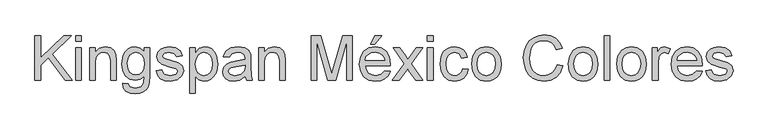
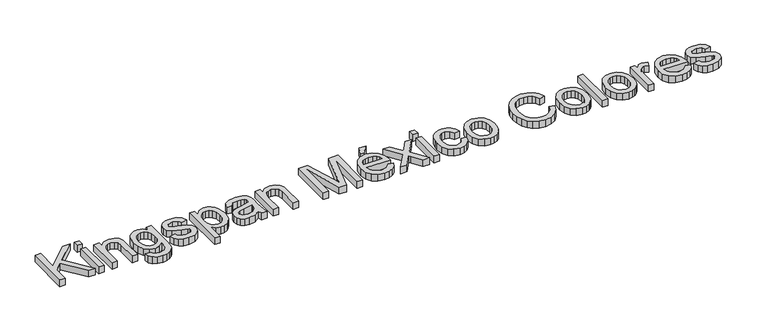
"""IFC4 building model written with IfcOpenShell, lengths in millimetres: proxy geometry, KIP-MX_ColourRange_Spanish : KIP-MX_ColourRange_Spanish."""

from ifc_helpers import new_model, si_unit, origin, origin_with_axes, place, context, project, spatial, polyline, outline, extrude, source, transform, mapped, element, save


def generic_models_9fd19f98(model_context):
    return source(origin(), model_context, "Body", "SweptSolid", [
        extrude(outline(polyline([(-1167.8046055, 2278.480545), (-1167.8046055, 2429.1650102), (-1148.9690473, 2429.1650102), (-1148.9690473, 2355.4046702), (-1071.7138283, 2429.1650102), (-1045.3734775, 2429.1650102), (-1110.2310732, 2367.2136822), (-1043.0190327, 2278.480545), (-1066.0484456, 2278.480545), (-1123.5851897, 2354.4849652), (-1148.9690473, 2330.2783299), (-1148.9690473, 2278.480545), (-1167.8046055, 2278.480545)])), origin_with_axes(), (0.0, 0.0, 1.0), 25.0),
        extrude(outline(polyline([(-1031.2468089, 2410.3294521), (-1031.2468089, 2429.1650102), (-1012.4112507, 2429.1650102), (-1012.4112507, 2410.3294521), (-1031.2468089, 2410.3294521)])), origin_with_axes(), (0.0, 0.0, 1.0), 25.0),
        extrude(outline(polyline([(-1031.2468089, 2278.480545), (-1031.2468089, 2389.1394492), (-1012.4112507, 2389.1394492), (-1012.4112507, 2278.480545), (-1031.2468089, 2278.480545)])), origin_with_axes(), (0.0, 0.0, 1.0), 25.0),
        extrude(outline(polyline([(-984.1579135, 2278.480545), (-984.1579135, 2389.1394492), (-965.3223553, 2389.1394492), (-965.3223553, 2373.6884054), (-950.9197752, 2387.0425218), (-931.2564826, 2391.4938939), (-913.4693881, 2387.9070445), (-901.3292823, 2378.4892654), (-895.6822937, 2364.6385083), (-894.6890123, 2346.4283495), (-894.6890123, 2278.480545), (-913.5245704, 2278.480545), (-913.5245704, 2343.8899637), (-915.6950742, 2360.5550181), (-923.3654138, 2369.3657919), (-936.2964659, 2372.6583358), (-947.3283273, 2370.8097287), (-956.7323108, 2365.2639077), (-963.1748442, 2354.5493446), (-965.3223553, 2337.1945114), (-965.3223553, 2278.480545), (-984.1579135, 2278.480545)])), origin_with_axes(), (0.0, 0.0, 1.0), 25.0),
        extrude(outline(polyline([(-873.4990093, 2269.0627659), (-854.6634512, 2266.7083212), (-848.5566101, 2256.7755073), (-830.2728749, 2252.5816525), (-810.9958584, 2257.3273303), (-801.7988085, 2270.6446585), (-800.5112215, 2292.6072136), (-813.7733674, 2282.0122122), (-829.9417811, 2278.480545), (-849.3613519, 2282.5916263), (-863.842107, 2294.9248702), (-872.8506173, 2313.0062703), (-875.8534541, 2334.3618201), (-870.4639829, 2363.5532564), (-863.8696981, 2375.4036552), (-854.8657863, 2384.2098304), (-843.7603486, 2389.672878), (-830.8614861, 2391.4938939), (-814.058476, 2387.3736156), (-800.5112215, 2375.0127805), (-800.5112215, 2389.1394492), (-781.6756634, 2389.1394492), (-781.6756634, 2293.600495), (-782.9632503, 2271.5413709), (-786.8260113, 2257.0146306), (-793.4800769, 2247.3807208), (-803.1415778, 2240.0000883), (-815.5989818, 2235.3095929), (-830.6407569, 2233.7460944), (-848.1657355, 2235.9487878), (-861.9659088, 2242.5568682), (-870.8180693, 2253.5887295), (-873.4990093, 2269.0627659)]), holes=[polyline([(-857.017896, 2335.6494071), (-855.0083406, 2318.3727489), (-848.9796744, 2306.4947589), (-839.9159817, 2299.6107671), (-828.8013469, 2297.3161032), (-817.7694856, 2299.5969715), (-808.6598077, 2306.4395766), (-802.5483681, 2318.1658152), (-800.5112215, 2335.0975841), (-802.6081489, 2351.4269461), (-808.898931, 2363.1853744), (-818.1419661, 2370.2900954), (-829.0956525, 2372.6583358), (-839.8516024, 2370.3268836), (-848.8693098, 2363.3325272), (-854.9807494, 2351.7488429), (-857.017896, 2335.6494071)])]), origin_with_axes(), (0.0, 0.0, 1.0), 25.0),
        extrude(outline(polyline([(-760.4856604, 2311.4427718), (-741.6501023, 2313.7972165), (-738.6794552, 2305.7406008), (-732.931299, 2299.8177007), (-712.9553067, 2294.9616584), (-693.7518665, 2299.4130305), (-687.4978726, 2309.8608792), (-689.0705681, 2314.6617392), (-693.7886547, 2318.3221651), (-713.1760358, 2323.6932422), (-741.5397377, 2332.9086862), (-753.9189668, 2343.6692345), (-758.1312157, 2358.8627609), (-754.7467013, 2372.8974591), (-745.5128632, 2383.6212192), (-733.5383043, 2389.1946315), (-717.3331024, 2391.4938939), (-694.4140541, 2387.7966799), (-679.8459271, 2377.7902896), (-673.371204, 2360.8861119), (-692.2067621, 2358.5316672), (-699.2884905, 2368.9243335), (-715.8615744, 2372.6583358), (-733.8877922, 2369.0898804), (-739.2956575, 2360.7757473), (-737.0515773, 2355.2943056), (-730.0250312, 2351.1372391), (-713.8014352, 2347.1273253), (-686.1551033, 2338.2613692), (-673.3160217, 2328.2181908), (-668.6623144, 2311.847442), (-674.1253621, 2293.8212242), (-689.8891056, 2280.7430193), (-713.212824, 2276.1261002), (-732.2047321, 2278.3517863), (-746.0646862, 2285.0288445), (-755.3169184, 2296.0836985), (-760.4856604, 2311.4427718)])), origin_with_axes(), (0.0, 0.0, 1.0), 25.0),
        extrude(outline(polyline([(-647.4723115, 2236.1005392), (-647.4723115, 2389.1394492), (-628.6367534, 2389.1394492), (-628.6367534, 2370.671773), (-615.6137307, 2386.2883637), (-598.0289714, 2391.4938939), (-585.2910573, 2389.672878), (-574.1534299, 2384.2098304), (-565.0851387, 2375.4358448), (-558.5552333, 2363.6820151), (-553.2945207, 2334.6561257), (-554.7798443, 2318.5474928), (-559.235815, 2304.1403142), (-566.5198785, 2292.1657552), (-576.4894805, 2283.3549814), (-588.100756, 2277.9333205), (-600.3098397, 2276.1261002), (-616.6989826, 2280.9637485), (-628.6367534, 2293.1958248), (-628.6367534, 2236.1005392), (-647.4723115, 2236.1005392)]), holes=[polyline([(-628.6367534, 2332.9270803), (-626.5996068, 2316.0412967), (-620.4881672, 2304.2322847), (-611.4704598, 2297.279315), (-600.7145099, 2294.9616584), (-589.7838161, 2297.3620884), (-580.5361825, 2304.5633785), (-574.2316048, 2316.8046519), (-572.1300789, 2334.3250319), (-574.181021, 2351.118845), (-580.3338474, 2363.0934039), (-589.3377592, 2370.2671028), (-599.9419577, 2372.6583358), (-610.587543, 2370.1153515), (-619.9363442, 2362.4863986), (-626.4616511, 2350.0106004), (-628.6367534, 2332.9270803)])]), origin_with_axes(), (0.0, 0.0, 1.0), 25.0),
        extrude(outline(polyline([(-461.4711747, 2292.6072136), (-479.7365158, 2279.8417084), (-499.9148432, 2276.1261002), (-515.6555941, 2278.3609834), (-527.2668696, 2285.0656327), (-534.4267729, 2295.2467669), (-536.8134074, 2307.9111046), (-533.2081638, 2322.8103254), (-523.7352024, 2333.6260561), (-510.5466329, 2339.8064736), (-494.2494605, 2342.639165), (-461.5815393, 2349.1138881), (-461.4711747, 2353.3077428), (-462.7679588, 2361.7138464), (-466.6583109, 2367.2136822), (-475.3587201, 2371.2971724), (-487.4804318, 2372.6583358), (-506.5367192, 2369.0346981), (-515.6234044, 2356.1772224), (-534.4589626, 2358.5316672), (-526.3103764, 2376.9257669), (-509.9028394, 2387.7047094), (-485.0524106, 2391.4938939), (-462.2253328, 2388.1461678), (-449.3310689, 2379.7400642), (-443.5553216, 2366.9561648), (-442.6356166, 2350.4750515), (-442.6356166, 2327.0409684), (-441.6791234, 2294.3178649), (-437.9267271, 2278.480545), (-456.7622852, 2278.480545), (-461.4711747, 2292.6072136)]), holes=[polyline([(-461.4711747, 2330.2783299), (-491.8582276, 2324.5025826), (-508.0634294, 2321.449162), (-515.4026752, 2316.4827551), (-517.9778492, 2309.2354798), (-512.3676488, 2299.0451485), (-495.9049295, 2294.9616584), (-476.8486421, 2299.4682128), (-464.5613835, 2310.375914), (-461.5815393, 2324.944041), (-461.4711747, 2330.2783299)])]), origin_with_axes(), (0.0, 0.0, 1.0), 25.0),
        extrude(outline(polyline([(-416.7367241, 2278.480545), (-416.7367241, 2389.1394492), (-397.901166, 2389.1394492), (-397.901166, 2373.6884054), (-383.4985859, 2387.0425218), (-363.8352932, 2391.4938939), (-346.0481988, 2387.9070445), (-333.9080929, 2378.4892654), (-328.2611043, 2364.6385083), (-327.2678229, 2346.4283495), (-327.2678229, 2278.480545), (-346.1033811, 2278.480545), (-346.1033811, 2343.8899637), (-348.2738848, 2360.5550181), (-355.9442244, 2369.3657919), (-368.8752766, 2372.6583358), (-379.9071379, 2370.8097287), (-389.3111214, 2365.2639077), (-395.7536548, 2354.5493446), (-397.901166, 2337.1945114), (-397.901166, 2278.480545), (-416.7367241, 2278.480545)])), origin_with_axes(), (0.0, 0.0, 1.0), 25.0),
        extrude(outline(polyline([(-240.1533665, 2278.480545), (-240.1533665, 2429.1650102), (-207.7429627, 2429.1650102), (-176.9144515, 2322.9574782), (-170.6972458, 2300.7741939), (-163.9650053, 2324.7968882), (-133.6515288, 2429.1650102), (-101.2411251, 2429.1650102), (-101.2411251, 2278.480545), (-120.0766832, 2278.480545), (-120.0766832, 2410.3294521), (-157.9317405, 2278.480545), (-183.462751, 2278.480545), (-221.3178083, 2410.3294521), (-221.3178083, 2278.480545), (-240.1533665, 2278.480545)])), origin_with_axes(), (0.0, 0.0, 1.0), 25.0),
        extrude(outline(polyline([(-40.0255611, 2400.911673), (-25.8988925, 2429.1650102), (-2.3544448, 2429.1650102), (-25.8988925, 2400.911673), (-40.0255611, 2400.911673)])), origin_with_axes(), (0.0, 0.0, 1.0), 25.0),
        extrude(outline(polyline([(6.8426051, 2311.4427718), (25.3102813, 2309.088327), (18.6562157, 2295.1731905), (8.0382216, 2284.7713271), (-6.3045777, 2278.287407), (-24.1330589, 2276.1261002), (-46.2335697, 2279.855504), (-63.238915, 2291.0437151), (-74.0822368, 2308.9641668), (-77.6966774, 2332.8902921), (-74.0454486, 2357.6211592), (-63.0917622, 2376.1164265), (-46.3163432, 2387.6495271), (-25.1999167, 2391.4938939), (-4.7410792, 2387.6587241), (11.6066769, 2376.1532147), (22.3258386, 2357.6947356), (25.8988925, 2333.0006567), (25.7885279, 2327.9238852), (-58.8611192, 2327.9238852), (-55.600765, 2313.8248077), (-48.0269945, 2303.4597325), (-37.0963007, 2297.0861769), (-23.7651769, 2294.9616584), (-5.2975007, 2298.8979957), (6.8426051, 2311.4427718)]), holes=[polyline([(-58.8611192, 2346.7594433), (7.0633343, 2346.7594433), (4.5157515, 2356.7106513), (-0.4782466, 2363.8291679), (-11.4595241, 2370.4510438), (-25.2734931, 2372.6583358), (-37.9700204, 2370.8971007), (-48.4684529, 2365.6133956), (-55.7663119, 2357.3774374), (-58.8611192, 2346.7594433)])]), origin_with_axes(), (0.0, 0.0, 1.0), 25.0),
        extrude(outline(polyline([(32.9622268, 2278.480545), (73.208517, 2334.1043027), (35.3166715, 2389.1394492), (57.9782024, 2389.1394492), (76.2619376, 2362.6519455), (84.7967999, 2350.1439577), (92.191228, 2360.3710771), (113.0133489, 2389.1394492), (135.6748798, 2389.1394492), (95.8700479, 2334.1043027), (134.2033518, 2278.480545), (111.5418209, 2278.480545), (88.4756198, 2311.9210184), (84.2449769, 2318.0278595), (55.6237577, 2278.480545), (32.9622268, 2278.480545)])), origin_with_axes(), (0.0, 0.0, 1.0), 25.0),
        extrude(outline(polyline([(150.6844652, 2278.480545), (150.6844652, 2389.1394492), (169.5200234, 2389.1394492), (169.5200234, 2278.480545), (150.6844652, 2278.480545)])), origin_with_axes(), (0.0, 0.0, 1.0), 25.0),
        extrude(outline(polyline([(150.6844652, 2410.3294521), (150.6844652, 2429.1650102), (169.5200234, 2429.1650102), (169.5200234, 2410.3294521), (150.6844652, 2410.3294521)])), origin_with_axes(), (0.0, 0.0, 1.0), 25.0),
        extrude(outline(polyline([(268.4067037, 2318.5061061), (287.2422618, 2316.1516613), (281.9907464, 2299.399235), (272.1223118, 2286.7394958), (258.5658603, 2278.7794491), (242.2502938, 2276.1261002), (222.2145207, 2279.8279128), (206.5473462, 2290.9333505), (196.4351898, 2308.9549698), (193.0644711, 2333.4053269), (194.5038094, 2350.1669503), (198.8218243, 2364.6936906), (206.0874937, 2376.4245277), (216.3697955, 2384.7984416), (228.6708497, 2389.8200308), (241.9927764, 2391.4938939), (257.9082712, 2389.1946315), (270.6323898, 2382.296844), (279.7604618, 2371.1684137), (284.8878171, 2356.1772224), (266.0522589, 2353.8227776), (257.3150615, 2367.9310521), (242.1399292, 2372.6583358), (229.9676337, 2370.3314821), (220.3061328, 2363.3509213), (214.0015551, 2351.3395741), (211.9000292, 2333.9203617), (213.9555699, 2316.2666244), (220.1221918, 2304.2138906), (229.6089488, 2297.2747164), (241.6248944, 2294.9616584), (251.3783658, 2296.4055952), (259.3752007, 2300.7374057), (265.1923347, 2308.0674545), (268.4067037, 2318.5061061)])), origin_with_axes(), (0.0, 0.0, 1.0), 25.0),
        extrude(outline(polyline([(299.0144857, 2333.8099971), (303.0887788, 2360.4906388), (315.3116581, 2379.2434235), (330.413214, 2388.4312763), (348.494614, 2391.4938939), (368.2820668, 2387.7644902), (384.0871971, 2376.576279), (394.4476738, 2358.8121772), (397.901166, 2335.3551015), (396.3744557, 2316.3264053), (391.7943249, 2301.8410517), (384.2941307, 2290.9931314), (374.0072304, 2282.8767348), (361.7889496, 2277.8137589), (348.494614, 2276.1261002), (328.4680379, 2279.8417084), (312.6813018, 2290.9885328), (302.4311897, 2309.1251152), (299.0144857, 2333.8099971)]), holes=[polyline([(317.8500438, 2333.8467853), (320.0297447, 2316.8000533), (326.5688471, 2304.655349), (336.4096905, 2297.385081), (348.494614, 2294.9616584), (360.5243553, 2297.3988766), (370.3468045, 2304.7105313), (376.885907, 2317.016184), (379.0656078, 2334.4353965), (376.8721114, 2350.9854877), (370.2916222, 2362.9646452), (360.4553774, 2370.2349131), (348.494614, 2372.6583358), (336.4096905, 2370.2441102), (326.5688471, 2363.0014334), (320.0297447, 2350.8843202), (317.8500438, 2333.8467853)])]), origin_with_axes(), (0.0, 0.0, 1.0), 25.0),
        extrude(outline(polyline([(586.2567475, 2332.0441635), (605.0923057, 2327.1881212), (596.4010935, 2305.2393616), (582.7618686, 2289.2043052), (564.8460154, 2279.3956515), (543.3249187, 2276.1261002), (521.4773267, 2278.6001067), (504.1270921, 2286.0221259), (490.828158, 2298.1346406), (481.1344674, 2314.6801333), (475.2161658, 2334.1318938), (473.2433986, 2354.9632118), (475.4736832, 2376.934964), (482.164537, 2395.9084779), (492.9664721, 2411.2813467), (507.5300005, 2422.4511638), (524.8020602, 2429.2523822), (543.7295889, 2431.519455), (564.3815644, 2428.5855961), (581.4558875, 2419.7840194), (594.4191293, 2405.6573507), (602.7378609, 2386.7482162), (583.9023027, 2382.2600558), (577.3723973, 2395.9958498), (568.4512589, 2405.4182274), (557.028523, 2410.8674795), (542.9938249, 2412.6838968), (526.8162141, 2410.6697429), (513.5264771, 2404.6272811), (503.4419119, 2395.191108), (496.8798168, 2382.9958198), (492.0789567, 2355.0), (493.499901, 2337.5991816), (497.7627336, 2322.552808), (505.028403, 2310.4356948), (515.4578575, 2301.8226576), (527.9612469, 2296.6769082), (541.4487205, 2294.9616584), (557.1710773, 2297.2977091), (570.2722748, 2304.3058611), (580.163702, 2315.912538), (586.2567475, 2332.0441635)])), origin_with_axes(), (0.0, 0.0, 1.0), 25.0),
        extrude(outline(polyline([(623.9278638, 2333.8099971), (628.0021569, 2360.4906388), (640.2250362, 2379.2434235), (655.3265921, 2388.4312763), (673.4079922, 2391.4938939), (693.195445, 2387.7644902), (709.0005752, 2376.576279), (719.3610519, 2358.8121772), (722.8145441, 2335.3551015), (721.2878338, 2316.3264053), (716.707703, 2301.8410517), (709.2075088, 2290.9931314), (698.9206085, 2282.8767348), (686.7023278, 2277.8137589), (673.4079922, 2276.1261002), (653.3814161, 2279.8417084), (637.5946799, 2290.9885328), (627.3445679, 2309.1251152), (623.9278638, 2333.8099971)]), holes=[polyline([(642.763422, 2333.8467853), (644.9431228, 2316.8000533), (651.4822253, 2304.655349), (661.3230686, 2297.385081), (673.4079922, 2294.9616584), (685.4377334, 2297.3988766), (695.2601827, 2304.7105313), (701.7992851, 2317.016184), (703.978986, 2334.4353965), (701.7854896, 2350.9854877), (695.2050004, 2362.9646452), (685.3687555, 2370.2349131), (673.4079922, 2372.6583358), (661.3230686, 2370.2441102), (651.4822253, 2363.0014334), (644.9431228, 2350.8843202), (642.763422, 2333.8467853)])]), origin_with_axes(), (0.0, 0.0, 1.0), 25.0),
        extrude(outline(polyline([(744.004547, 2278.480545), (744.004547, 2429.1650102), (762.8401052, 2429.1650102), (762.8401052, 2278.480545), (744.004547, 2278.480545)])), origin_with_axes(), (0.0, 0.0, 1.0), 25.0),
        extrude(outline(polyline([(786.3845529, 2333.8099971), (790.458846, 2360.4906388), (802.6817253, 2379.2434235), (817.7832812, 2388.4312763), (835.8646812, 2391.4938939), (855.6521341, 2387.7644902), (871.4572643, 2376.576279), (881.817741, 2358.8121772), (885.2712332, 2335.3551015), (883.7445229, 2316.3264053), (879.1643921, 2301.8410517), (871.6641979, 2290.9931314), (861.3772976, 2282.8767348), (849.1590168, 2277.8137589), (835.8646812, 2276.1261002), (815.8381051, 2279.8417084), (800.051369, 2290.9885328), (789.8012569, 2309.1251152), (786.3845529, 2333.8099971)]), holes=[polyline([(805.220111, 2333.8467853), (807.3998119, 2316.8000533), (813.9389143, 2304.655349), (823.7797577, 2297.385081), (835.8646812, 2294.9616584), (847.8944225, 2297.3988766), (857.7168718, 2304.7105313), (864.2559742, 2317.016184), (866.435675, 2334.4353965), (864.2421786, 2350.9854877), (857.6616895, 2362.9646452), (847.8254446, 2370.2349131), (835.8646812, 2372.6583358), (823.7797577, 2370.2441102), (813.9389143, 2363.0014334), (807.3998119, 2350.8843202), (805.220111, 2333.8467853)])]), origin_with_axes(), (0.0, 0.0, 1.0), 25.0),
        extrude(outline(polyline([(906.4612361, 2278.480545), (906.4612361, 2389.1394492), (922.9423495, 2389.1394492), (922.9423495, 2372.7687004), (934.6409969, 2387.8518622), (946.4132208, 2391.4938939), (965.3223553, 2385.6813584), (959.0315732, 2368.7955748), (945.7878214, 2372.6583358), (935.1376376, 2368.9427276), (928.3502148, 2358.6420318), (925.2967943, 2336.6426884), (925.2967943, 2278.480545), (906.4612361, 2278.480545)])), origin_with_axes(), (0.0, 0.0, 1.0), 25.0),
        extrude(outline(polyline([(1054.5705274, 2311.4427718), (1073.0382035, 2309.088327), (1066.3841379, 2295.1731905), (1055.7661439, 2284.7713271), (1041.4233446, 2278.287407), (1023.5948634, 2276.1261002), (1001.4943525, 2279.855504), (984.4890073, 2291.0437151), (973.6456855, 2308.9641668), (970.0312449, 2332.8902921), (973.6824737, 2357.6211592), (984.6361601, 2376.1164265), (1001.4115791, 2387.6495271), (1022.5280056, 2391.4938939), (1042.9868431, 2387.6587241), (1059.3345992, 2376.1532147), (1070.0537608, 2357.6947356), (1073.6268147, 2333.0006567), (1073.5164501, 2327.9238852), (988.866803, 2327.9238852), (992.1271572, 2313.8248077), (999.7009278, 2303.4597325), (1010.6316216, 2297.0861769), (1023.9627454, 2294.9616584), (1042.4304215, 2298.8979957), (1054.5705274, 2311.4427718)]), holes=[polyline([(988.866803, 2346.7594433), (1054.7912566, 2346.7594433), (1052.2436738, 2356.7106513), (1047.2496757, 2363.8291679), (1036.2683981, 2370.4510438), (1022.4544292, 2372.6583358), (1009.7579018, 2370.8971007), (999.2594694, 2365.6133956), (991.9616103, 2357.3774374), (988.866803, 2346.7594433)])]), origin_with_axes(), (0.0, 0.0, 1.0), 25.0),
        extrude(outline(polyline([(1085.3990386, 2311.4427718), (1104.2345967, 2313.7972165), (1107.2052438, 2305.7406008), (1112.9534, 2299.8177007), (1132.9293923, 2294.9616584), (1152.1328325, 2299.4130305), (1158.3868264, 2309.8608792), (1156.8141309, 2314.6617392), (1152.0960443, 2318.3221651), (1132.7086631, 2323.6932422), (1104.3449613, 2332.9086862), (1091.9657322, 2343.6692345), (1087.7534833, 2358.8627609), (1091.1379977, 2372.8974591), (1100.3718358, 2383.6212192), (1112.3463947, 2389.1946315), (1128.5515966, 2391.4938939), (1151.4706449, 2387.7966799), (1166.0387719, 2377.7902896), (1172.513495, 2360.8861119), (1153.6779369, 2358.5316672), (1146.5962085, 2368.9243335), (1130.0231246, 2372.6583358), (1111.9969068, 2369.0898804), (1106.5890415, 2360.7757473), (1108.8331217, 2355.2943056), (1115.8596678, 2351.1372391), (1132.0832638, 2347.1273253), (1159.7295957, 2338.2613692), (1172.5686773, 2328.2181908), (1177.2223846, 2311.847442), (1171.7593369, 2293.8212242), (1155.9955934, 2280.7430193), (1132.6718749, 2276.1261002), (1113.6799669, 2278.3517863), (1099.8200128, 2285.0288445), (1090.5677806, 2296.0836985), (1085.3990386, 2311.4427718)])), origin_with_axes(), (0.0, 0.0, 1.0), 25.0),
    ])


if __name__ == "__main__":
    model = new_model("IFC4")
    model_context = context("Model", 3, world=origin())
    ifc_project = project(units=[si_unit("LENGTHUNIT", "METRE", prefix="MILLI")], contexts=[model_context])
    site = spatial("IfcSite", under=ifc_project)
    building = spatial("IfcBuilding", under=site)
    placement = place(None, origin())
    generic_models_shape = generic_models_9fd19f98(model_context)
    element("IfcBuildingElementProxy", 1, Name="KIP-MX_ColourRange_Spanish : KIP-MX_ColourRange_Spanish", ObjectType="KIP-MX_ColourRange_Spanish : KIP-MX_ColourRange_Spanish", at=placement, inside=building, context=model_context, shape_type="MappedRepresentation", body=[
        mapped(generic_models_shape, transform((0.0, 0.0, 0.0), x_axis=(1.0, 0.0, 0.0), y_axis=(0.0, 1.0, 0.0), z_axis=(0.0, 0.0, 1.0))),
    ])
    save(model, "model.ifc")
